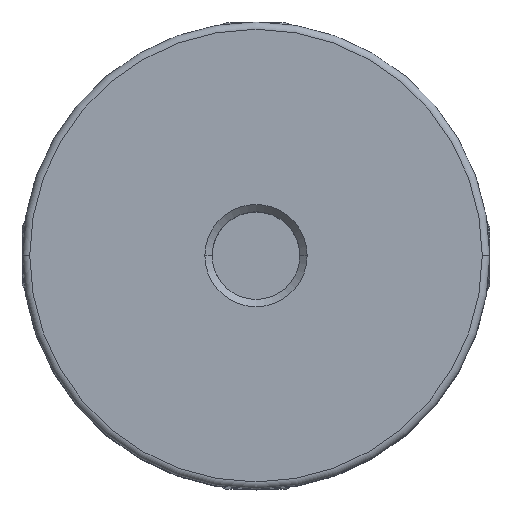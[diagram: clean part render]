
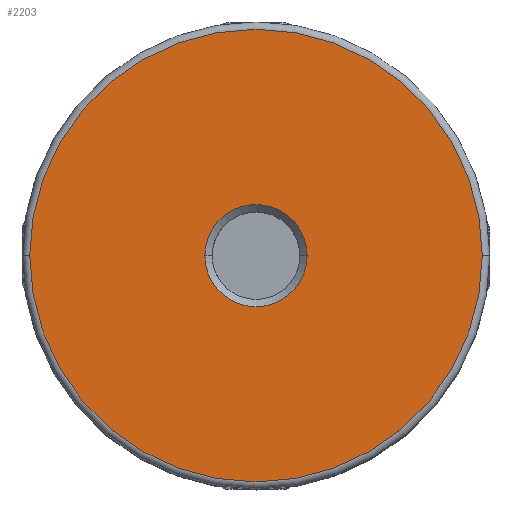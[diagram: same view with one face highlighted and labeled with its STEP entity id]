
A CAD part, top view. The second image highlights one B-rep face of the part: STEP entity #2203.
In plain terms, the highlighted planar face has unit normal (0, 0, 1).
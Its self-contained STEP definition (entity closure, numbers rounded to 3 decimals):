
#283 = DIRECTION ( 'NONE',  ( -1., 0., 0. ) ) ;
#284 = DIRECTION ( 'NONE',  ( 0., 0., 1. ) ) ;
#285 = CARTESIAN_POINT ( 'NONE',  ( 0., 0., 15.95 ) ) ;
#391 = CARTESIAN_POINT ( 'NONE',  ( -15.5, 0., 15.95 ) ) ;
#612 = EDGE_CURVE ( 'NONE', #5067, #5071, #5516, .T. ) ;
#613 = EDGE_CURVE ( 'NONE', #5269, #4957, #5454, .T. ) ;
#912 = EDGE_CURVE ( 'NONE', #4957, #5269, #3657, .T. ) ;
#1009 = EDGE_CURVE ( 'NONE', #5071, #5067, #3769, .T. ) ;
#1043 = AXIS2_PLACEMENT_3D ( 'NONE', #4942, #4941, #4940 ) ;
#1044 = AXIS2_PLACEMENT_3D ( 'NONE', #4938, #4937, #4939 ) ;
#1109 = AXIS2_PLACEMENT_3D ( 'NONE', #285, #284, #283 ) ;
#1152 = AXIS2_PLACEMENT_3D ( 'NONE', #4632, #4633, #4634 ) ;
#1261 = AXIS2_PLACEMENT_3D ( 'NONE', #5838, #5842, #5843 ) ;
#2203 = ADVANCED_FACE ( 'NONE', ( #3928, #3931 ), #5840, .F. ) ;
#2808 = EDGE_LOOP ( 'NONE', ( #3300, #3345 ) ) ;
#2813 = EDGE_LOOP ( 'NONE', ( #3091, #3346 ) ) ;
#3091 = ORIENTED_EDGE ( 'NONE', *, *, #613, .T. ) ;
#3300 = ORIENTED_EDGE ( 'NONE', *, *, #1009, .T. ) ;
#3345 = ORIENTED_EDGE ( 'NONE', *, *, #612, .T. ) ;
#3346 = ORIENTED_EDGE ( 'NONE', *, *, #912, .T. ) ;
#3657 = CIRCLE ( 'NONE', #1109, 15.5 ) ;
#3769 = CIRCLE ( 'NONE', #1152, 3.5 ) ;
#3928 = FACE_BOUND ( 'NONE', #2808, .T. ) ;
#3931 = FACE_OUTER_BOUND ( 'NONE', #2813, .T. ) ;
#4632 = CARTESIAN_POINT ( 'NONE',  ( 0., 0., 15.95 ) ) ;
#4633 = DIRECTION ( 'NONE',  ( 0., 0., -1. ) ) ;
#4634 = DIRECTION ( 'NONE',  ( 0., 1., 0. ) ) ;
#4937 = DIRECTION ( 'NONE',  ( 0., 0., 1. ) ) ;
#4938 = CARTESIAN_POINT ( 'NONE',  ( 0., 0., 15.95 ) ) ;
#4939 = DIRECTION ( 'NONE',  ( -1., 0., 0. ) ) ;
#4940 = DIRECTION ( 'NONE',  ( 0., 1., 0. ) ) ;
#4941 = DIRECTION ( 'NONE',  ( 0., 0., -1. ) ) ;
#4942 = CARTESIAN_POINT ( 'NONE',  ( 0., 0., 15.95 ) ) ;
#4957 = VERTEX_POINT ( 'NONE', #6073 ) ;
#5067 = VERTEX_POINT ( 'NONE', #6152 ) ;
#5071 = VERTEX_POINT ( 'NONE', #6153 ) ;
#5269 = VERTEX_POINT ( 'NONE', #391 ) ;
#5454 = CIRCLE ( 'NONE', #1044, 15.5 ) ;
#5516 = CIRCLE ( 'NONE', #1043, 3.5 ) ;
#5838 = CARTESIAN_POINT ( 'NONE',  ( 0., 0., 15.95 ) ) ;
#5840 = PLANE ( 'NONE',  #1261 ) ;
#5842 = DIRECTION ( 'NONE',  ( 0., 0., -1. ) ) ;
#5843 = DIRECTION ( 'NONE',  ( -1., 0., 0. ) ) ;
#6073 = CARTESIAN_POINT ( 'NONE',  ( 15.5, 0., 15.95 ) ) ;
#6152 = CARTESIAN_POINT ( 'NONE',  ( -3.5, 0., 15.95 ) ) ;
#6153 = CARTESIAN_POINT ( 'NONE',  ( 3.5, 0., 15.95 ) ) ;
